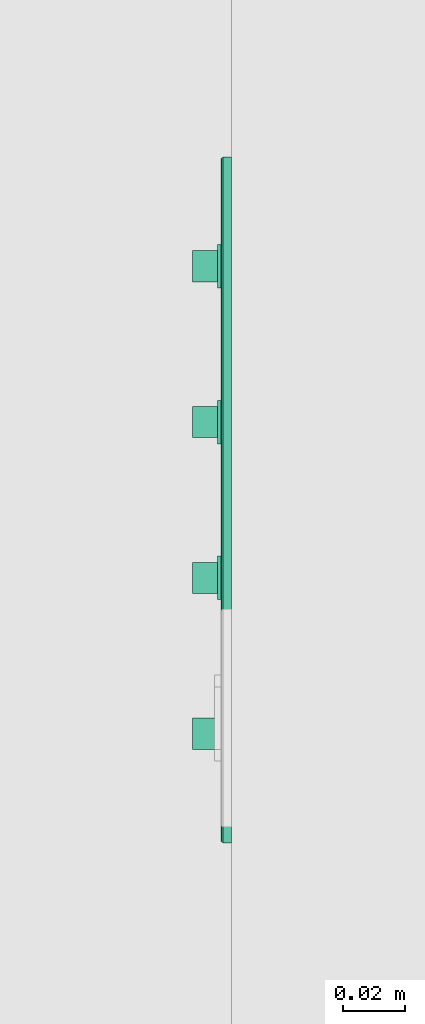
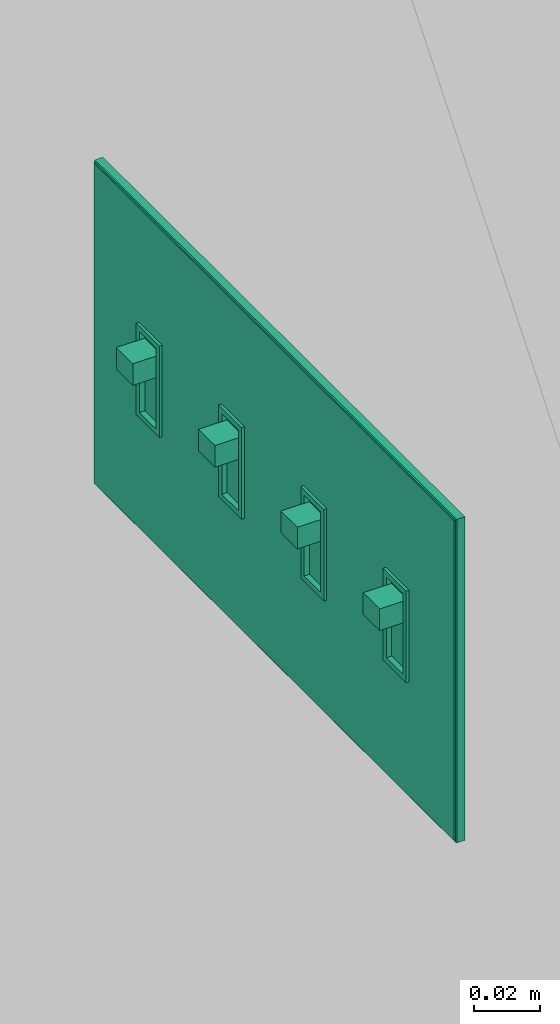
# One storey, part 22 of 103: 1 flow controller.
"""IFC2X3 building model written with IfcOpenShell, lengths in inches."""

from ifc_helpers import new_model, entity, si_unit, converted_unit, derived_unit, money_unit, direction, frame, origin_with_axes, place, context, subcontext, project, spatial, faceted_brep, source, transform, mapped, type_object, element, save


model = new_model("IFC2X3")

# Units and contexts
model_context = context("Model", 3, precision=0.00039370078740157, world=origin_with_axes(), true_north=direction((0.0, 1.0)))
plan_context = context("Plan", 3, precision=0.00039370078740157, world=origin_with_axes(), true_north=direction((0.0, 1.0)))
body_context = subcontext(model_context, "Body", "Model", "MODEL_VIEW")
ifc_project = project(units=[converted_unit("LENGTHUNIT", "INCH", entity("IfcPositiveLengthMeasure", 0.0254), si_unit("LENGTHUNIT", "METRE"), dimensions=[1, 0, 0, 0, 0, 0, 0]), converted_unit("AREAUNIT", "SQUARE_FOOT", entity("IfcPositiveLengthMeasure", 0.09290304), si_unit("AREAUNIT", "SQUARE_METRE"), dimensions=[2, 0, 0, 0, 0, 0, 0]), si_unit("PLANEANGLEUNIT", "RADIAN"), si_unit("SOLIDANGLEUNIT", "STERADIAN"), money_unit("USD"), converted_unit("TIMEUNIT", "Year", entity("IfcTimeMeasure", 31557600.0), si_unit("TIMEUNIT", "SECOND"), dimensions=[0, 0, 1, 0, 0, 0, 0]), si_unit("MASSUNIT", "GRAM", prefix="KILO"), si_unit("THERMODYNAMICTEMPERATUREUNIT", "DEGREE_CELSIUS"), si_unit("LUMINOUSINTENSITYUNIT", "LUMEN"), si_unit("ENERGYUNIT", "JOULE", prefix="MEGA"), derived_unit("SPECIFICHEATCAPACITYUNIT", [(si_unit("ENERGYUNIT", "JOULE"), 1), (si_unit("MASSUNIT", "GRAM", prefix="KILO"), -1), (si_unit("THERMODYNAMICTEMPERATUREUNIT", "KELVIN"), -1)])], contexts=[model_context, plan_context])

# Site, building, storey
site_placement = place(None, origin_with_axes())
site = spatial("IfcSite", under=ifc_project, at=site_placement, Name="Site", CompositionType="ELEMENT")
building_placement = place(site_placement, origin_with_axes())
building = spatial("IfcBuilding", under=site, at=building_placement, Name="Building", CompositionType="ELEMENT")
storey_placement = place(building_placement, frame((0.0, 0.0, 127.9999999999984), z_axis=(0.0, 0.0, 1.0), x_axis=(1.0, 0.0, 0.0)))
storey = spatial("IfcBuildingStorey", under=building, at=storey_placement, Name="Second Floor", CompositionType="ELEMENT", Elevation=128.0)

# Flow controller
switching_device_type = type_object("IfcSwitchingDeviceType", Name="Switch US", PredefinedType="NOTDEFINED")
shared_shape = source(origin_with_axes(), body_context, "Body", "Brep", [
    faceted_brep([(3.14960629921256, 0.0, -0.5905511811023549), (2.755905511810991, 0.0, -0.5905511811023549), (2.755905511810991, 0.0, 0.5905511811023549), (3.14960629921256, 0.0, 0.5905511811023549), (3.14960629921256, -0.1033464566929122, -0.5905511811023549), (2.755905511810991, -0.1033464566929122, -0.5905511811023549), (2.755905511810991, -0.1033464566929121, 0.157480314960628), (2.755905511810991, -0.4970472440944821, 0.1574803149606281), (2.755905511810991, -0.4970472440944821, 0.472440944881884), (2.755905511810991, -0.1033464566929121, 0.472440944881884), (2.755905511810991, -0.1033464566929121, 0.5905511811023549), (3.14960629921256, -0.103346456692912, 0.5905511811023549), (3.14960629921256, -0.1033464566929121, 0.472440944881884), (3.14960629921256, -0.4970472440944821, 0.472440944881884), (3.14960629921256, -0.4970472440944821, 0.1574803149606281), (3.14960629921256, -0.1033464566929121, 0.157480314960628)], [[[0, 1, 2, 3]], [[4, 5, 1, 0]], [[1, 5, 6, 7, 8, 9, 10, 2]], [[3, 2, 10, 11]], [[0, 3, 11, 12, 13, 14, 15, 4]], [[15, 6, 5, 4]], [[14, 7, 6, 15]], [[13, 8, 7, 14]], [[12, 9, 8, 13]], [[11, 10, 9, 12]]]),
    faceted_brep([(3.228346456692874, 0.0, -0.669291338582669), (3.228346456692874, -0.1771653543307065, -0.669291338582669), (2.677165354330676, -0.1771653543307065, -0.669291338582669), (2.677165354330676, 0.0, -0.669291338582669), (3.228346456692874, 0.0, 0.669291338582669), (3.228346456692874, -0.1771653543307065, 0.669291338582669), (2.677165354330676, -0.1771653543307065, 0.669291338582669), (3.14960629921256, -0.1771653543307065, -0.5905511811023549), (2.75590551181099, -0.1771653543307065, -0.5905511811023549), (2.75590551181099, -0.1771653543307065, 0.5905511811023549), (3.14960629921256, -0.1771653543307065, 0.5905511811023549), (2.677165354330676, 0.0, 0.669291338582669), (3.14960629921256, 0.0, -0.5905511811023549), (3.14960629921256, 0.0, 0.5905511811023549), (2.75590551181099, 0.0, 0.5905511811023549), (2.75590551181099, 0.0, -0.5905511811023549)], [[[0, 1, 2, 3]], [[4, 5, 1, 0]], [[1, 5, 6, 2], [7, 8, 9, 10]], [[3, 2, 6, 11]], [[0, 3, 11, 4], [12, 13, 14, 15]], [[11, 6, 5, 4]], [[15, 8, 7, 12]], [[14, 9, 8, 15]], [[13, 10, 9, 14]], [[12, 7, 10, 13]]]),
    faceted_brep([(1.968503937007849, -0.103346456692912, 2.362204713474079), (4.330708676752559, -0.103346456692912, 2.362204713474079), (4.330708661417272, 0.0, 2.36220472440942), (1.968503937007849, 0.0, 2.36220472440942), (1.968503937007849, -0.1122624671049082, 2.361030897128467), (4.329534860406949, -0.1122624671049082, 2.361030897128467), (4.330708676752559, -0.1033464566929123, -2.36220473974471), (4.330708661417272, 0.0, -2.36220472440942), (1.968503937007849, 0.0, -2.36220472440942), (2.677165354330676, 0.0, -0.669291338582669), (3.228346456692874, 0.0, -0.669291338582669), (3.228346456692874, 0.0, 0.669291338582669), (2.677165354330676, 0.0, 0.669291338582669), (1.968503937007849, -0.1033464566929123, -2.36220473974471), (1.968503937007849, -0.1122624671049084, -2.361030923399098), (1.968503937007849, -0.1277054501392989, -2.352114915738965), (1.968503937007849, -0.1366214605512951, -2.336671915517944), (1.968503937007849, -0.1377952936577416, -2.327755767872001), (1.968503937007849, -0.1377952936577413, 2.32775574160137), (1.968503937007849, -0.1366214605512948, 2.336671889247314), (1.968503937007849, -0.1277054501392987, 2.352114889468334), (4.320618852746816, -0.1277054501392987, 2.352114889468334), (4.329534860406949, -0.1122624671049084, -2.361030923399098), (2.677165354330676, -0.1377952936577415, -0.669291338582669), (3.228346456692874, -0.1377952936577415, -0.669291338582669), (3.228346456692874, -0.1377952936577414, 0.669291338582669), (2.677165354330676, -0.1377952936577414, 0.669291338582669), (4.320618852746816, -0.1277054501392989, -2.352114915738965), (4.305175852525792, -0.1366214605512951, -2.336671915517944), (4.296259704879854, -0.1377952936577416, -2.327755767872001), (4.296259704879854, -0.1377952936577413, 2.32775574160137), (4.305175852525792, -0.1366214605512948, 2.336671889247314)], [[[0, 1, 2, 3]], [[4, 5, 1, 0]], [[6, 7, 2, 1]], [[3, 2, 7, 8], [9, 10, 11, 12]], [[8, 13, 14, 15, 16, 17, 18, 19, 20, 4, 0, 3]], [[20, 21, 5, 4]], [[22, 6, 1, 5]], [[8, 7, 6, 13]], [[10, 9, 23, 24]], [[11, 10, 24, 25]], [[12, 11, 25, 26]], [[9, 12, 26, 23]], [[13, 6, 22, 14]], [[14, 22, 27, 15]], [[15, 27, 28, 16]], [[16, 28, 29, 17]], [[17, 29, 30, 18], [25, 24, 23, 26]], [[18, 30, 31, 19]], [[19, 31, 21, 20]], [[27, 22, 5, 21]], [[28, 27, 21, 31]], [[29, 28, 31, 30]]]),
    faceted_brep([(1.18110236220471, 0.0, -0.5905511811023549), (0.7874015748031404, 0.0, -0.5905511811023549), (0.7874015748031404, 0.0, 0.5905511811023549), (1.18110236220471, 0.0, 0.5905511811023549), (1.18110236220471, -0.1033464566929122, -0.5905511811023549), (0.7874015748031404, -0.1033464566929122, -0.5905511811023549), (0.7874015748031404, -0.1033464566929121, 0.157480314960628), (0.7874015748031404, -0.4970472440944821, 0.1574803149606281), (0.7874015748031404, -0.4970472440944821, 0.472440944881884), (0.7874015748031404, -0.1033464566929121, 0.472440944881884), (0.7874015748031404, -0.1033464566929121, 0.5905511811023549), (1.18110236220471, -0.103346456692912, 0.5905511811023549), (1.18110236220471, -0.1033464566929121, 0.472440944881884), (1.18110236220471, -0.4970472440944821, 0.472440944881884), (1.18110236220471, -0.4970472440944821, 0.1574803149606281), (1.18110236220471, -0.1033464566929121, 0.157480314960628)], [[[0, 1, 2, 3]], [[4, 5, 1, 0]], [[1, 5, 6, 7, 8, 9, 10, 2]], [[3, 2, 10, 11]], [[0, 3, 11, 12, 13, 14, 15, 4]], [[15, 6, 5, 4]], [[14, 7, 6, 15]], [[13, 8, 7, 14]], [[12, 9, 8, 13]], [[11, 10, 9, 12]]]),
    faceted_brep([(1.259842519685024, 0.0, -0.669291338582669), (1.259842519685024, -0.1771653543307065, -0.669291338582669), (0.7086614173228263, -0.1771653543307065, -0.669291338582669), (0.7086614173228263, 0.0, -0.669291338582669), (1.259842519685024, 0.0, 0.669291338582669), (1.259842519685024, -0.1771653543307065, 0.669291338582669), (0.7086614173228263, -0.1771653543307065, 0.669291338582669), (1.18110236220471, -0.1771653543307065, -0.5905511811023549), (0.7874015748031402, -0.1771653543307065, -0.5905511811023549), (0.7874015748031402, -0.1771653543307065, 0.5905511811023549), (1.18110236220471, -0.1771653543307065, 0.5905511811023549), (0.7086614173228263, 0.0, 0.669291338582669), (1.18110236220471, 0.0, -0.5905511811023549), (1.18110236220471, 0.0, 0.5905511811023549), (0.7874015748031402, 0.0, 0.5905511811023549), (0.7874015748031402, 0.0, -0.5905511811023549)], [[[0, 1, 2, 3]], [[4, 5, 1, 0]], [[1, 5, 6, 2], [7, 8, 9, 10]], [[3, 2, 6, 11]], [[0, 3, 11, 4], [12, 13, 14, 15]], [[11, 6, 5, 4]], [[15, 8, 7, 12]], [[14, 9, 8, 15]], [[13, 10, 9, 14]], [[12, 7, 10, 13]]]),
    faceted_brep([(1.968503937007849, 0.0, -2.36220472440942), (0.0, 0.0, -2.36220472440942), (0.0, 0.0, 2.36220472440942), (1.968503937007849, 0.0, 2.36220472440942), (0.7086614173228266, 0.0, 0.669291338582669), (0.7086614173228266, 0.0, -0.669291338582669), (1.259842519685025, 0.0, -0.669291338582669), (1.259842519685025, 0.0, 0.669291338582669), (1.968503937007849, -0.1033464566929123, -2.36220473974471), (0.0, -0.1033464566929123, -2.36220473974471), (0.0, -0.1277054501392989, -2.352114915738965), (0.0, -0.1366214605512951, -2.336671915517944), (0.0, -0.1377952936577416, -2.327755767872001), (0.0, -0.1377952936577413, 2.32775574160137), (0.0, -0.1366214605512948, 2.336671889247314), (0.0, -0.1277054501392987, 2.352114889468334), (0.0, -0.1122624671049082, 2.361030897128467), (0.0, -0.103346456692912, 2.362204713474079), (0.0, -0.1122624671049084, -2.361030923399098), (1.968503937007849, -0.103346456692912, 2.362204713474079), (1.968503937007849, -0.1122624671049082, 2.361030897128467), (1.968503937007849, -0.1277054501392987, 2.352114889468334), (1.968503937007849, -0.1366214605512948, 2.336671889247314), (1.968503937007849, -0.1377952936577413, 2.32775574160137), (1.968503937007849, -0.1377952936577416, -2.327755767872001), (1.968503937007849, -0.1366214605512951, -2.336671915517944), (1.968503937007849, -0.1277054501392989, -2.352114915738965), (1.968503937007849, -0.1122624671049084, -2.361030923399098), (0.7086614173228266, -0.1377952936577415, -0.669291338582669), (0.7086614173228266, -0.1377952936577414, 0.669291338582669), (1.259842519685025, -0.1377952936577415, -0.669291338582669), (1.259842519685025, -0.1377952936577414, 0.669291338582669)], [[[0, 1, 2, 3], [4, 5, 6, 7]], [[8, 9, 1, 0]], [[10, 11, 12, 13, 14, 15, 16, 17, 2, 1, 9, 18]], [[3, 2, 17, 19]], [[19, 20, 21, 22, 23, 24, 25, 26, 27, 8, 0, 3]], [[28, 5, 4, 29]], [[30, 6, 5, 28]], [[31, 7, 6, 30]], [[29, 4, 7, 31]], [[27, 18, 9, 8]], [[25, 11, 10, 26]], [[24, 12, 11, 25]], [[23, 13, 12, 24], [29, 31, 30, 28]], [[22, 14, 13, 23]], [[21, 15, 14, 22]], [[20, 16, 15, 21]], [[19, 17, 16, 20]], [[26, 10, 18, 27]]]),
    faceted_brep([(-0.7874015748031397, 0.0, -0.5905511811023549), (-1.18110236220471, 0.0, -0.5905511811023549), (-1.18110236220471, 0.0, 0.5905511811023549), (-0.7874015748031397, 0.0, 0.5905511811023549), (-0.7874015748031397, -0.1033464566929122, -0.5905511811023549), (-1.18110236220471, -0.1033464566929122, -0.5905511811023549), (-1.18110236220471, -0.1033464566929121, 0.157480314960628), (-1.18110236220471, -0.4970472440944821, 0.1574803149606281), (-1.18110236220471, -0.4970472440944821, 0.472440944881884), (-1.18110236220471, -0.1033464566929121, 0.472440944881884), (-1.18110236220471, -0.1033464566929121, 0.5905511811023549), (-0.7874015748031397, -0.103346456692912, 0.5905511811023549), (-0.7874015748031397, -0.1033464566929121, 0.472440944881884), (-0.7874015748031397, -0.4970472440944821, 0.472440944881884), (-0.7874015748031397, -0.4970472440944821, 0.1574803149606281), (-0.7874015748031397, -0.1033464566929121, 0.157480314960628)], [[[0, 1, 2, 3]], [[4, 5, 1, 0]], [[1, 5, 6, 7, 8, 9, 10, 2]], [[3, 2, 10, 11]], [[0, 3, 11, 12, 13, 14, 15, 4]], [[15, 6, 5, 4]], [[14, 7, 6, 15]], [[13, 8, 7, 14]], [[12, 9, 8, 13]], [[11, 10, 9, 12]]]),
    faceted_brep([(-0.7086614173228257, 0.0, -0.669291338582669), (-0.7086614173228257, -0.1771653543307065, -0.669291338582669), (-1.259842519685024, -0.1771653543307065, -0.669291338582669), (-1.259842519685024, 0.0, -0.669291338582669), (-0.7086614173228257, 0.0, 0.669291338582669), (-0.7086614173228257, -0.1771653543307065, 0.669291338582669), (-1.259842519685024, -0.1771653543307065, 0.669291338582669), (-0.7874015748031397, -0.1771653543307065, -0.5905511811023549), (-1.18110236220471, -0.1771653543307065, -0.5905511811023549), (-1.18110236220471, -0.1771653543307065, 0.5905511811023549), (-0.7874015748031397, -0.1771653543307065, 0.5905511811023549), (-1.259842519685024, 0.0, 0.669291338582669), (-0.7874015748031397, 0.0, -0.5905511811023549), (-0.7874015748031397, 0.0, 0.5905511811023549), (-1.18110236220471, 0.0, 0.5905511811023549), (-1.18110236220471, 0.0, -0.5905511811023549)], [[[0, 1, 2, 3]], [[4, 5, 1, 0]], [[1, 5, 6, 2], [7, 8, 9, 10]], [[3, 2, 6, 11]], [[0, 3, 11, 4], [12, 13, 14, 15]], [[11, 6, 5, 4]], [[15, 8, 7, 12]], [[14, 9, 8, 15]], [[13, 10, 9, 14]], [[12, 7, 10, 13]]]),
    faceted_brep([(0.0, 0.0, -2.36220472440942), (-1.968503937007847, 0.0, -2.36220472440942), (-1.968503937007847, 0.0, 2.36220472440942), (0.0, 0.0, 2.36220472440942), (-1.259842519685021, 0.0, 0.669291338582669), (-1.259842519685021, 0.0, -0.669291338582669), (-0.7086614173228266, 0.0, -0.669291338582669), (-0.7086614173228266, 0.0, 0.669291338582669), (0.0, -0.1033464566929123, -2.36220473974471), (-1.968503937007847, -0.1033464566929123, -2.36220473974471), (-1.968503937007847, -0.1277054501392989, -2.352114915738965), (-1.968503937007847, -0.1366214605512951, -2.336671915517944), (-1.968503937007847, -0.1377952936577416, -2.327755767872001), (-1.968503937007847, -0.1377952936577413, 2.32775574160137), (-1.968503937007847, -0.1366214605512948, 2.336671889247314), (-1.968503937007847, -0.1277054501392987, 2.352114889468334), (-1.968503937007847, -0.1122624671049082, 2.361030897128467), (-1.968503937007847, -0.103346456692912, 2.362204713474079), (-1.968503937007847, -0.1122624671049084, -2.361030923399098), (0.0, -0.103346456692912, 2.362204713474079), (0.0, -0.1122624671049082, 2.361030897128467), (0.0, -0.1277054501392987, 2.352114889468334), (0.0, -0.1366214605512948, 2.336671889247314), (0.0, -0.1377952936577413, 2.32775574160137), (0.0, -0.1377952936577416, -2.327755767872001), (0.0, -0.1366214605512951, -2.336671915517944), (0.0, -0.1277054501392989, -2.352114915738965), (0.0, -0.1122624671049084, -2.361030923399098), (-1.259842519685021, -0.1377952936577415, -0.669291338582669), (-1.259842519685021, -0.1377952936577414, 0.669291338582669), (-0.7086614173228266, -0.1377952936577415, -0.669291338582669), (-0.7086614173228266, -0.1377952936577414, 0.669291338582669)], [[[0, 1, 2, 3], [4, 5, 6, 7]], [[8, 9, 1, 0]], [[10, 11, 12, 13, 14, 15, 16, 17, 2, 1, 9, 18]], [[3, 2, 17, 19]], [[19, 20, 21, 22, 23, 24, 25, 26, 27, 8, 0, 3]], [[28, 5, 4, 29]], [[30, 6, 5, 28]], [[31, 7, 6, 30]], [[29, 4, 7, 31]], [[27, 18, 9, 8]], [[25, 11, 10, 26]], [[24, 12, 11, 25]], [[23, 13, 12, 24], [29, 31, 30, 28]], [[22, 14, 13, 23]], [[21, 15, 14, 22]], [[20, 16, 15, 21]], [[19, 17, 16, 20]], [[26, 10, 18, 27]]]),
    faceted_brep([(-2.755905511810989, 0.0, -0.5905511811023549), (-3.14960629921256, 0.0, -0.5905511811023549), (-3.14960629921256, 0.0, 0.5905511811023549), (-2.755905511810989, 0.0, 0.5905511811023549), (-2.755905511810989, -0.1033464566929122, -0.5905511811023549), (-3.14960629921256, -0.1033464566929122, -0.5905511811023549), (-3.14960629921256, -0.1033464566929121, 0.157480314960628), (-3.14960629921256, -0.4970472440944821, 0.1574803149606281), (-3.14960629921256, -0.4970472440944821, 0.472440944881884), (-3.14960629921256, -0.1033464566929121, 0.472440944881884), (-3.14960629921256, -0.1033464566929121, 0.5905511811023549), (-2.755905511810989, -0.103346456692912, 0.5905511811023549), (-2.755905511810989, -0.1033464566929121, 0.472440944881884), (-2.755905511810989, -0.4970472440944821, 0.472440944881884), (-2.755905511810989, -0.4970472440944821, 0.1574803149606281), (-2.755905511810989, -0.1033464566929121, 0.157480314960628)], [[[0, 1, 2, 3]], [[4, 5, 1, 0]], [[1, 5, 6, 7, 8, 9, 10, 2]], [[3, 2, 10, 11]], [[0, 3, 11, 12, 13, 14, 15, 4]], [[15, 6, 5, 4]], [[14, 7, 6, 15]], [[13, 8, 7, 14]], [[12, 9, 8, 13]], [[11, 10, 9, 12]]]),
    faceted_brep([(-2.677165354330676, 0.0, -0.669291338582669), (-2.677165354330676, -0.1771653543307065, -0.669291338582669), (-3.228346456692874, -0.1771653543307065, -0.669291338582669), (-3.228346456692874, 0.0, -0.669291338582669), (-2.677165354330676, 0.0, 0.669291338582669), (-2.677165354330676, -0.1771653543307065, 0.669291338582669), (-3.228346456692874, -0.1771653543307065, 0.669291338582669), (-2.75590551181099, -0.1771653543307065, -0.5905511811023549), (-3.14960629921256, -0.1771653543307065, -0.5905511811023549), (-3.14960629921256, -0.1771653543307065, 0.5905511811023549), (-2.75590551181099, -0.1771653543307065, 0.5905511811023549), (-3.228346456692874, 0.0, 0.669291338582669), (-2.75590551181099, 0.0, -0.5905511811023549), (-2.75590551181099, 0.0, 0.5905511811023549), (-3.14960629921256, 0.0, 0.5905511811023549), (-3.14960629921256, 0.0, -0.5905511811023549)], [[[0, 1, 2, 3]], [[4, 5, 1, 0]], [[1, 5, 6, 2], [7, 8, 9, 10]], [[3, 2, 6, 11]], [[0, 3, 11, 4], [12, 13, 14, 15]], [[11, 6, 5, 4]], [[15, 8, 7, 12]], [[14, 9, 8, 15]], [[13, 10, 9, 14]], [[12, 7, 10, 13]]]),
    faceted_brep([(-1.968503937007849, 0.0, -2.36220472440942), (-4.330708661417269, 0.0, -2.36220472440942), (-4.330708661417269, 0.0, 2.36220472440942), (-1.968503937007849, 0.0, 2.36220472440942), (-3.228346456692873, 0.0, -0.669291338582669), (-2.677165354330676, 0.0, -0.669291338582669), (-2.677165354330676, 0.0, 0.669291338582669), (-3.228346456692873, 0.0, 0.669291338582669), (-1.968503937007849, -0.1033464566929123, -2.36220473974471), (-4.330708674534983, -0.1033464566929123, -2.36220473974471), (-4.330708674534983, -0.103346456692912, 2.362204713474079), (-1.968503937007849, -0.103346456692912, 2.362204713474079), (-1.968503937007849, -0.1122624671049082, 2.361030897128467), (-1.968503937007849, -0.1277054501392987, 2.352114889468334), (-1.968503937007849, -0.1366214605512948, 2.336671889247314), (-1.968503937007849, -0.1377952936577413, 2.32775574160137), (-1.968503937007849, -0.1377952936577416, -2.327755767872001), (-1.968503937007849, -0.1366214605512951, -2.336671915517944), (-1.968503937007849, -0.1277054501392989, -2.352114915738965), (-1.968503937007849, -0.1122624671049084, -2.361030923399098), (-3.228346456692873, -0.1377952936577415, -0.669291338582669), (-2.677165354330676, -0.1377952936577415, -0.669291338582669), (-2.677165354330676, -0.1377952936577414, 0.669291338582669), (-3.228346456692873, -0.1377952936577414, 0.669291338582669), (-4.329534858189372, -0.1122624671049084, -2.361030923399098), (-4.329534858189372, -0.1122624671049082, 2.361030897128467), (-4.32061885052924, -0.1277054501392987, 2.352114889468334), (-4.30517585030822, -0.1366214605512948, 2.336671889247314), (-4.296259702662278, -0.1377952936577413, 2.32775574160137), (-4.296259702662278, -0.1377952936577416, -2.327755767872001), (-4.30517585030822, -0.1366214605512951, -2.336671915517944), (-4.32061885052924, -0.1277054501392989, -2.352114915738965)], [[[0, 1, 2, 3], [4, 5, 6, 7]], [[8, 9, 1, 0]], [[10, 2, 1, 9]], [[3, 2, 10, 11]], [[11, 12, 13, 14, 15, 16, 17, 18, 19, 8, 0, 3]], [[5, 4, 20, 21]], [[6, 5, 21, 22]], [[7, 6, 22, 23]], [[4, 7, 23, 20]], [[19, 24, 9, 8]], [[25, 10, 9, 24]], [[11, 10, 25, 12]], [[12, 25, 26, 13]], [[13, 26, 27, 14]], [[14, 27, 28, 15]], [[15, 28, 29, 16], [22, 21, 20, 23]], [[16, 29, 30, 17]], [[17, 30, 31, 18]], [[18, 31, 24, 19]], [[26, 25, 24, 31]], [[27, 26, 31, 30]], [[28, 27, 30, 29]]]),
])
flow_controller_placement = place(storey_placement, frame((-16.00045133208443, 358.0003699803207, 45.99999999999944), z_axis=(0.0, 0.0, 1.0), x_axis=(2.428137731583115e-06, -0.9999999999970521, 0.0)))
element("IfcFlowController", 1, at=flow_controller_placement, inside=storey, type_object=switching_device_type, Name="OBJ-09", context=body_context, shape_type="MappedRepresentation", body=[
    mapped(shared_shape, transform((0.0, 0.0, 0.0))),
])

save(model, "model.ifc")
